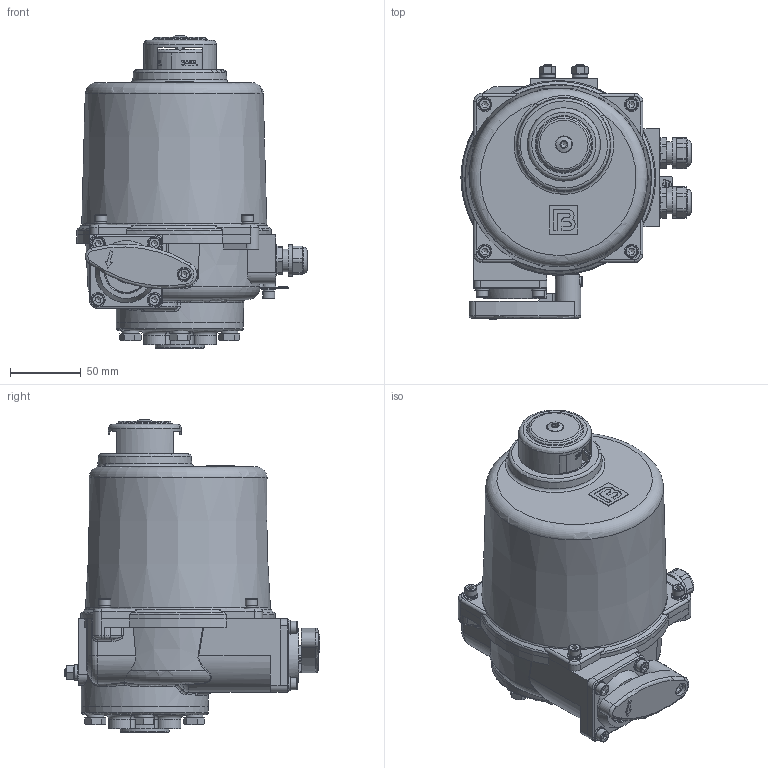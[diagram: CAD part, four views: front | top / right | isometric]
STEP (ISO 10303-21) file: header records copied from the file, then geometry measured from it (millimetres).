
FILE_DESCRIPTION(('STEP AP242'), '1');
FILE_NAME('8100 F05', '', ('UNSPECIFIED'), ('UNSPECIFIED'), 'C3D Converter', 'C3D Toolkit', '');
FILE_SCHEMA(('AP242_MANAGED_MODEL_BASED_3D_ENGINEERING_MIM_LF { 1 0 10303 442 1 1 4 }'));
Length unit declared in the file: millimetre
Products named in the file (1): ГЗ-ОФ (К) F05
Bounding box: 163.2 x 181.09 x 221.87 mm (x, y, z)
Volume: 1625140.3 mm3; surface area: 296940.6 mm2
Topology: 47 solids, 51 shells, 2525 faces, 6912 edges, 4489 vertices
Faces by surface type: plane 1079, cylinder 853, cone 260, bspline 179, torus 140, sphere 14
Full cylindrical faces by diameter (mm): 2 x3, 3.242 x1, 3.545 x1, 4 x6, 4.134 x12, 4.2 x3, 4.3 x1, 4.5 x1, 4.917 x5, 5 x13, 5.3 x9, 5.459 x1, 5.5 x5, 6 x9, 6.2 x1, 6.647 x8, 6.8 x2, 7 x4, 7.35 x1, 8 x8, 8.2 x2, 8.5 x10, 8.75 x1, 9 x6, 9.6 x1, 10 x14, 10.5 x1, 11 x2, 11.3 x1, 11.6 x4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
Entity records: 198407 total; most frequent: CARTESIAN_POINT 119314, ORIENTED_EDGE 12864, DIRECTION 10712, EDGE_CURVE 6439, VERTEX_POINT 4392, AXIS2_PLACEMENT_3D 4236, EDGE_LOOP 3145, FACE_BOUND 2738
